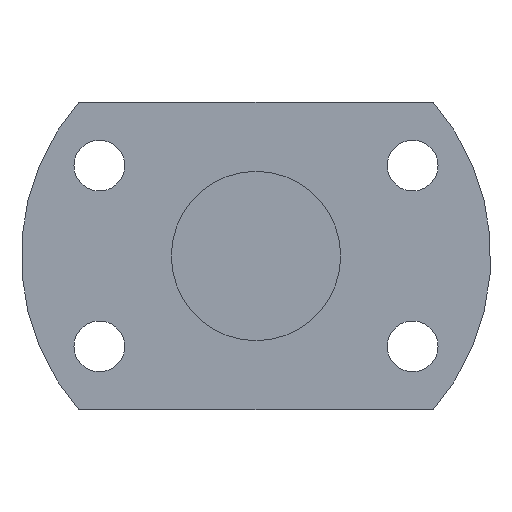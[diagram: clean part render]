
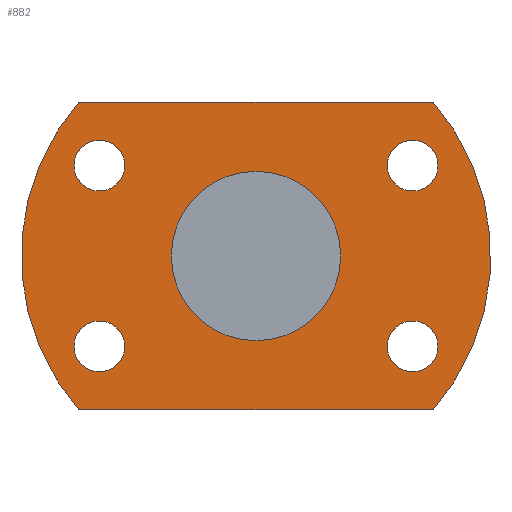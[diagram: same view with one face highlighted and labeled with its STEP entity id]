
A CAD part, left-side view. The second image highlights one B-rep face of the part: STEP entity #882.
In plain terms, the highlighted planar face has unit normal (-1, 0, 0).
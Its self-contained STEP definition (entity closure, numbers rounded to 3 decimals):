
#230=CARTESIAN_POINT('',(125.0,20.352,-8.45));
#231=VERTEX_POINT('',#230);
#232=CARTESIAN_POINT('',(125.0,20.352,-11.75));
#233=DIRECTION('',(1.0,0.0,0.0));
#234=DIRECTION('',(0.0,0.0,1.0));
#235=AXIS2_PLACEMENT_3D('',#232,#233,#234);
#236=CIRCLE('',#235,3.3);
#237=EDGE_CURVE('',#231,#231,#236,.T.);
#279=CARTESIAN_POINT('',(125.0,-20.352,15.05));
#280=VERTEX_POINT('',#279);
#281=CARTESIAN_POINT('',(125.0,-20.352,11.75));
#282=DIRECTION('',(1.0,0.0,0.0));
#283=DIRECTION('',(0.0,0.0,1.0));
#284=AXIS2_PLACEMENT_3D('',#281,#282,#283);
#285=CIRCLE('',#284,3.3);
#286=EDGE_CURVE('',#280,#280,#285,.T.);
#328=CARTESIAN_POINT('',(125.0,-20.352,-8.45));
#329=VERTEX_POINT('',#328);
#330=CARTESIAN_POINT('',(125.0,-20.352,-11.75));
#331=DIRECTION('',(1.0,0.0,0.0));
#332=DIRECTION('',(0.0,0.0,1.0));
#333=AXIS2_PLACEMENT_3D('',#330,#331,#332);
#334=CIRCLE('',#333,3.3);
#335=EDGE_CURVE('',#329,#329,#334,.T.);
#377=CARTESIAN_POINT('',(125.0,20.352,15.05));
#378=VERTEX_POINT('',#377);
#379=CARTESIAN_POINT('',(125.0,20.352,11.75));
#380=DIRECTION('',(1.0,0.0,0.0));
#381=DIRECTION('',(0.0,0.0,1.0));
#382=AXIS2_PLACEMENT_3D('',#379,#380,#381);
#383=CIRCLE('',#382,3.3);
#384=EDGE_CURVE('',#378,#378,#383,.T.);
#688=CARTESIAN_POINT('',(125.0,-23.027,-20.0));
#689=VERTEX_POINT('',#688);
#696=CARTESIAN_POINT('',(125.0,23.027,-20.0));
#697=VERTEX_POINT('',#696);
#698=CARTESIAN_POINT('',(125.0,23.027,-20.0));
#699=DIRECTION('',(0.0,-1.0,0.0));
#700=VECTOR('',#699,46.054);
#701=LINE('',#698,#700);
#702=EDGE_CURVE('',#697,#689,#701,.T.);
#719=CARTESIAN_POINT('',(125.0,-23.027,20.0));
#720=VERTEX_POINT('',#719);
#727=CARTESIAN_POINT('',(125.0,0.0,0.));
#728=DIRECTION('',(-1.0,0.0,0.0));
#729=DIRECTION('',(0.0,0.0,1.0));
#730=AXIS2_PLACEMENT_3D('',#727,#728,#729);
#731=CIRCLE('',#730,30.5);
#732=EDGE_CURVE('',#689,#720,#731,.T.);
#744=CARTESIAN_POINT('',(125.0,23.027,20.0));
#745=VERTEX_POINT('',#744);
#752=CARTESIAN_POINT('',(125.0,-23.027,20.0));
#753=DIRECTION('',(0.0,1.0,0.0));
#754=VECTOR('',#753,46.054);
#755=LINE('',#752,#754);
#756=EDGE_CURVE('',#720,#745,#755,.T.);
#769=CARTESIAN_POINT('',(125.0,0.0,0.));
#770=DIRECTION('',(-1.0,0.0,0.0));
#771=DIRECTION('',(0.0,0.0,1.0));
#772=AXIS2_PLACEMENT_3D('',#769,#770,#771);
#773=CIRCLE('',#772,30.5);
#774=EDGE_CURVE('',#745,#697,#773,.T.);
#848=CARTESIAN_POINT('',(125.0,0.0,14.5));
#849=DIRECTION('',(-1.0,0.0,0.0));
#850=DIRECTION('',(0.0,0.0,1.0));
#851=AXIS2_PLACEMENT_3D('',#848,#849,#850);
#852=PLANE('',#851);
#853=ORIENTED_EDGE('',*,*,#774,.T.);
#854=ORIENTED_EDGE('',*,*,#702,.T.);
#855=ORIENTED_EDGE('',*,*,#732,.T.);
#856=ORIENTED_EDGE('',*,*,#756,.T.);
#857=EDGE_LOOP('',(#853,#854,#855,#856));
#858=FACE_OUTER_BOUND('',#857,.T.);
#859=ORIENTED_EDGE('',*,*,#237,.T.);
#860=EDGE_LOOP('',(#859));
#861=FACE_BOUND('',#860,.T.);
#862=ORIENTED_EDGE('',*,*,#286,.T.);
#863=EDGE_LOOP('',(#862));
#864=FACE_BOUND('',#863,.T.);
#865=ORIENTED_EDGE('',*,*,#335,.T.);
#866=EDGE_LOOP('',(#865));
#867=FACE_BOUND('',#866,.T.);
#868=ORIENTED_EDGE('',*,*,#384,.T.);
#869=EDGE_LOOP('',(#868));
#870=FACE_BOUND('',#869,.T.);
#871=CARTESIAN_POINT('',(125.0,0.0,11.));
#872=VERTEX_POINT('',#871);
#873=CARTESIAN_POINT('',(125.0,0.0,0.));
#874=DIRECTION('',(-1.0,0.0,0.0));
#875=DIRECTION('',(0.0,0.0,1.0));
#876=AXIS2_PLACEMENT_3D('',#873,#874,#875);
#877=CIRCLE('',#876,11.);
#878=EDGE_CURVE('',#872,#872,#877,.T.);
#879=ORIENTED_EDGE('',*,*,#878,.F.);
#880=EDGE_LOOP('',(#879));
#881=FACE_BOUND('',#880,.T.);
#882=ADVANCED_FACE('',(#858,#861,#864,#867,#870,#881),#852,.T.);
